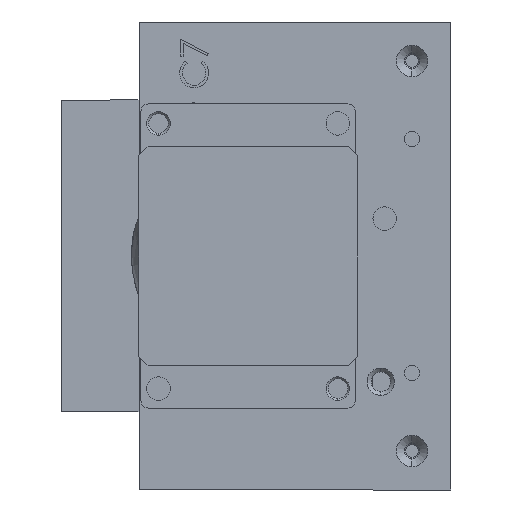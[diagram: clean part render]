
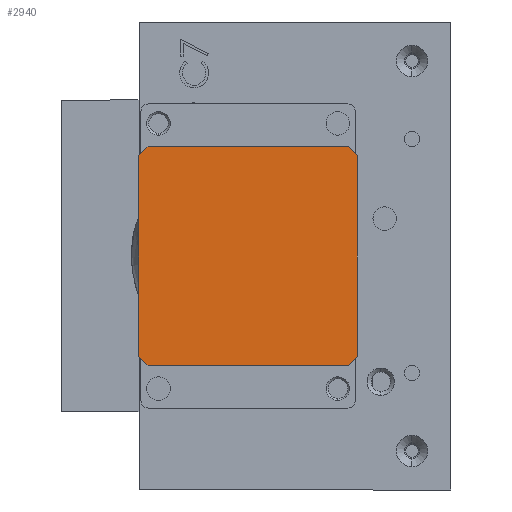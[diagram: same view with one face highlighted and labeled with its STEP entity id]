
A CAD part, front view. The second image highlights one B-rep face of the part: STEP entity #2940.
In plain terms, the highlighted planar face has unit normal (0, -1, 0) as drawn and (0, 0, -1) by its records, which use the part's own axes.
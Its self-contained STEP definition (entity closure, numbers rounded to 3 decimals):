
#503 = CARTESIAN_POINT ( 'NONE',  ( 0., 0., 0. ) ) ;
#504 = DIRECTION ( 'NONE',  ( 1., 0., 0. ) ) ;
#507 = DIRECTION ( 'NONE',  ( 1., 0., 0. ) ) ;
#509 = DIRECTION ( 'NONE',  ( 0., 0., 1. ) ) ;
#524 = CARTESIAN_POINT ( 'NONE',  ( -14., -14., 0. ) ) ;
#700 = DIRECTION ( 'NONE',  ( 0., 0., 1. ) ) ;
#701 = DIRECTION ( 'NONE',  ( -1., 0., 0. ) ) ;
#709 = CARTESIAN_POINT ( 'NONE',  ( 0., 0., 0. ) ) ;
#727 = CARTESIAN_POINT ( 'NONE',  ( -14., 14., 0. ) ) ;
#733 = DIRECTION ( 'NONE',  ( 1., 0., 0. ) ) ;
#743 = DIRECTION ( 'NONE',  ( 1., 0., 0. ) ) ;
#746 = DIRECTION ( 'NONE',  ( 0., 1., 0. ) ) ;
#751 = DIRECTION ( 'NONE',  ( 0., 0., 1. ) ) ;
#752 = DIRECTION ( 'NONE',  ( 1., 0., 0. ) ) ;
#754 = CARTESIAN_POINT ( 'NONE',  ( -14., 14., 0. ) ) ;
#760 = DIRECTION ( 'NONE',  ( 0., -1., 0. ) ) ;
#762 = DIRECTION ( 'NONE',  ( 0., 0., 1. ) ) ;
#765 = CARTESIAN_POINT ( 'NONE',  ( 0., 0., 0. ) ) ;
#767 = CARTESIAN_POINT ( 'NONE',  ( 14., 14., 0. ) ) ;
#768 = CARTESIAN_POINT ( 'NONE',  ( 0., 0., 0. ) ) ;
#1561 = EDGE_LOOP ( 'NONE', ( #4725, #4742, #4733, #4738, #4783, #4729, #4741, #4744 ) ) ;
#2940 = ADVANCED_FACE ( 'NONE', ( #13638 ), #18418, .F. ) ;
#4725 = ORIENTED_EDGE ( 'NONE', *, *, #18891, .F. ) ;
#4729 = ORIENTED_EDGE ( 'NONE', *, *, #18972, .F. ) ;
#4733 = ORIENTED_EDGE ( 'NONE', *, *, #18956, .F. ) ;
#4738 = ORIENTED_EDGE ( 'NONE', *, *, #18883, .F. ) ;
#4741 = ORIENTED_EDGE ( 'NONE', *, *, #18970, .F. ) ;
#4742 = ORIENTED_EDGE ( 'NONE', *, *, #18983, .F. ) ;
#4744 = ORIENTED_EDGE ( 'NONE', *, *, #18963, .F. ) ;
#4783 = ORIENTED_EDGE ( 'NONE', *, *, #18980, .F. ) ;
#7866 = VERTEX_POINT ( 'NONE', #19479 ) ;
#7868 = VERTEX_POINT ( 'NONE', #19475 ) ;
#7869 = VERTEX_POINT ( 'NONE', #19462 ) ;
#7875 = VERTEX_POINT ( 'NONE', #19486 ) ;
#7877 = VERTEX_POINT ( 'NONE', #19481 ) ;
#7885 = VERTEX_POINT ( 'NONE', #19488 ) ;
#7909 = VERTEX_POINT ( 'NONE', #19501 ) ;
#7911 = VERTEX_POINT ( 'NONE', #19512 ) ;
#10542 = LINE ( 'NONE', #524, #10565 ) ;
#10565 = VECTOR ( 'NONE', #504, 1000. ) ;
#10573 = CIRCLE ( 'NONE', #15983, 19. ) ;
#10654 = LINE ( 'NONE', #727, #10655 ) ;
#10655 = VECTOR ( 'NONE', #701, 1000. ) ;
#10669 = CIRCLE ( 'NONE', #16091, 19. ) ;
#10676 = LINE ( 'NONE', #754, #10711 ) ;
#10688 = CIRCLE ( 'NONE', #15993, 19. ) ;
#10692 = CIRCLE ( 'NONE', #16171, 19. ) ;
#10711 = VECTOR ( 'NONE', #760, 1000. ) ;
#10732 = LINE ( 'NONE', #767, #10743 ) ;
#10743 = VECTOR ( 'NONE', #746, 1000. ) ;
#13638 = FACE_OUTER_BOUND ( 'NONE', #1561, .T. ) ;
#15327 = AXIS2_PLACEMENT_3D ( 'NONE', #18399, #18435, #18414 ) ;
#15983 = AXIS2_PLACEMENT_3D ( 'NONE', #503, #509, #507 ) ;
#15993 = AXIS2_PLACEMENT_3D ( 'NONE', #709, #700, #733 ) ;
#16091 = AXIS2_PLACEMENT_3D ( 'NONE', #768, #751, #752 ) ;
#16171 = AXIS2_PLACEMENT_3D ( 'NONE', #765, #762, #743 ) ;
#18399 = CARTESIAN_POINT ( 'NONE',  ( 0., 0., 0. ) ) ;
#18414 = DIRECTION ( 'NONE',  ( 1., 0., 0. ) ) ;
#18418 = PLANE ( 'NONE',  #15327 ) ;
#18435 = DIRECTION ( 'NONE',  ( 0., 0., 1. ) ) ;
#18883 = EDGE_CURVE ( 'NONE', #7875, #7869, #10542, .T. ) ;
#18891 = EDGE_CURVE ( 'NONE', #7877, #7868, #10573, .T. ) ;
#18956 = EDGE_CURVE ( 'NONE', #7869, #7909, #10688, .T. ) ;
#18963 = EDGE_CURVE ( 'NONE', #7868, #7911, #10654, .T. ) ;
#18970 = EDGE_CURVE ( 'NONE', #7911, #7885, #10669, .T. ) ;
#18972 = EDGE_CURVE ( 'NONE', #7885, #7866, #10676, .T. ) ;
#18980 = EDGE_CURVE ( 'NONE', #7866, #7875, #10692, .T. ) ;
#18983 = EDGE_CURVE ( 'NONE', #7909, #7877, #10732, .T. ) ;
#19462 = CARTESIAN_POINT ( 'NONE',  ( 12.845, -14., 0. ) ) ;
#19475 = CARTESIAN_POINT ( 'NONE',  ( 12.845, 14., 0. ) ) ;
#19479 = CARTESIAN_POINT ( 'NONE',  ( -14., -12.845, 0. ) ) ;
#19481 = CARTESIAN_POINT ( 'NONE',  ( 14., 12.845, 0. ) ) ;
#19486 = CARTESIAN_POINT ( 'NONE',  ( -12.845, -14., 0. ) ) ;
#19488 = CARTESIAN_POINT ( 'NONE',  ( -14., 12.845, 0. ) ) ;
#19501 = CARTESIAN_POINT ( 'NONE',  ( 14., -12.845, 0. ) ) ;
#19512 = CARTESIAN_POINT ( 'NONE',  ( -12.845, 14., 0. ) ) ;
